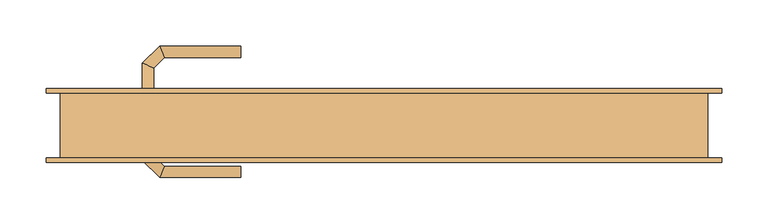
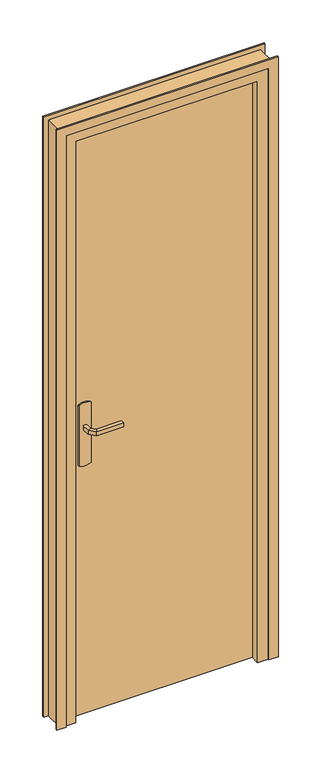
"""IFC4 building model written with IfcOpenShell, lengths in millimetres: door geometry, @_Int. Simple : @_PP (0.63m x 2.04m)."""

from ifc_helpers import new_model, si_unit, point, frame, frame_2d, origin, origin_with_axes, place, context, project, spatial, polyline, circle_curve, ellipse_curve, trimmed, segment, composite_curve, outline, extrude, faceted_brep, source, transform, mapped, element, save
from ifc_brep_helpers import plane_surface, cylinder_surface, advanced_brep


def door_d545ad62(model_context):
    return source(origin(), model_context, "Body", "SolidModel", [
        extrude(outline(composite_curve([segment(trimmed(circle_curve(frame_2d((904.6410162, -290.0)), 40.0), [point((870.0, -310.0))], [point((870.0, -270.0))], False, "CARTESIAN"), True, "CONTINUOUS"), segment(polyline([(870.0, -270.0), (1080.0, -270.0)]), True, "CONTINUOUS"), segment(trimmed(circle_curve(frame_2d((1045.3589838, -290.0)), 40.0), [point((1080.0, -270.0))], [point((1080.0, -310.0))], False, "CARTESIAN"), True, "CONTINUOUS"), segment(polyline([(1080.0, -310.0), (870.0, -310.0)]), True, "CONTINUOUS")], self_intersect=False)), frame((0.0, 35.0, 0.0), z_axis=(0.0, 1.0, 0.0), x_axis=(0.0, 0.0, 1.0)), (0.0, 0.0, 1.0), 5.0),
        extrude(outline(composite_curve([segment(trimmed(circle_curve(frame_2d((1045.3589838, -290.0)), 40.0), [point((1080.0, -270.0))], [point((1080.0, -310.0))], False, "CARTESIAN"), True, "CONTINUOUS"), segment(polyline([(1080.0, -310.0), (870.0, -310.0)]), True, "CONTINUOUS"), segment(trimmed(circle_curve(frame_2d((904.6410162, -290.0)), 40.0), [point((870.0, -310.0))], [point((870.0, -270.0))], False, "CARTESIAN"), True, "CONTINUOUS"), segment(polyline([(870.0, -270.0), (1080.0, -270.0)]), True, "CONTINUOUS")], self_intersect=False)), frame((0.0, -10.0, 0.0), z_axis=(0.0, 1.0, 0.0), x_axis=(0.0, 0.0, 1.0)), (0.0, 0.0, 1.0), 5.0),
        advanced_brep(
        [(-296.0, 40.0, 1007.0), (-296.0, 40.0, 993.0), (-284.0, 40.0, 993.0), (-284.0, 40.0, 1007.0), (-284.0, 62.680388, 1007.0), (-296.0, 67.6509507, 1007.0), (-284.0, 62.680388, 993.0), (-296.0, 67.6509507, 993.0), (-272.6522273, 74.0281607, 1007.0), (-277.62279, 86.0281607, 1007.0), (-272.6522273, 74.0281607, 993.0), (-277.62279, 86.0281607, 993.0), (-189.9813594, 86.0281607, 1007.0), (-189.9813594, 74.0281607, 1007.0), (-189.9813594, 74.0281607, 993.0), (-189.9813594, 86.0281607, 993.0)],
        [
            (0, 1),
            (1, 2, circle_curve(frame((-290.0, 40.0, 1013.0457722), z_axis=(0.0, -1.0, 0.0), x_axis=(1.0, 0.0, 0.0)), 20.9244589)),
            (2, 3),
            (3, 0, circle_curve(frame((-290.0, 40.0, 986.9542278), z_axis=(0.0, -1.0, 0.0), x_axis=(1.0, 0.0, 0.0)), 20.9244589)),
            (3, 4),
            (4, 5, ellipse_curve(frame((-290.0, 65.1656693, 986.9542278), z_axis=(-0.3826834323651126, -0.9238795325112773, 0.0), x_axis=(0.9238795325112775, -0.38268343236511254, 0.0)), 22.6484711, 20.9244589)),
            (5, 0),
            (2, 6),
            (6, 4),
            (1, 7),
            (7, 6, ellipse_curve(frame((-290.0, 65.1656693, 1013.0457722), z_axis=(-0.3826834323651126, -0.9238795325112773, 0.0), x_axis=(0.9238795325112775, -0.38268343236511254, 0.0)), 22.6484711, 20.9244589)),
            (5, 7),
            (4, 8),
            (8, 9, ellipse_curve(frame((-275.1375086, 80.0281607, 986.9542278), z_axis=(-0.9238795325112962, -0.38268343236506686, 0.0), x_axis=(0.3826834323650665, -0.9238795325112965, 0.0)), 22.6484711, 20.9244589)),
            (9, 5),
            (6, 10),
            (10, 8),
            (7, 11),
            (11, 10, ellipse_curve(frame((-275.1375086, 80.0281607, 1013.0457722), z_axis=(-0.9238795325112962, -0.38268343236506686, 0.0), x_axis=(0.3826834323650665, -0.9238795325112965, 0.0)), 22.6484711, 20.9244589)),
            (9, 11),
            (12, 13, circle_curve(frame((-189.9813594, 80.0281607, 986.9542278), z_axis=(1.0, 0.0, 0.0), x_axis=(0.0, -1.0, 0.0)), 20.9244589)),
            (13, 14),
            (14, 15, circle_curve(frame((-189.9813594, 80.0281607, 1013.0457722), z_axis=(1.0, 0.0, 0.0), x_axis=(0.0, -1.0, 0.0)), 20.9244589)),
            (15, 12),
            (8, 13),
            (12, 9),
            (10, 14),
            (11, 15),
        ],
        [
            plane_surface(frame((-299.2195445, 40.0, 1000.0), z_axis=(0.0, -1.0, 0.0), x_axis=(0.0, 0.0, -1.0))),
            cylinder_surface(frame((-290.0, 40.0, 986.9542278), z_axis=(0.0, -1.0, 0.0), x_axis=(1.0, 0.0, 0.0)), 20.9244589),
            plane_surface(frame((-284.0, 40.0, 1007.0), z_axis=(1.0, 0.0, 0.0), x_axis=(0.0, 1.0, 0.0))),
            cylinder_surface(frame((-290.0, 40.0, 1013.0457722), z_axis=(0.0, -1.0, 0.0), x_axis=(1.0, 0.0, 0.0)), 20.9244589),
            plane_surface(frame((-296.0, 40.0, 993.0), z_axis=(-1.0, 0.0, 0.0), x_axis=(0.0, 1.0, 0.0))),
            cylinder_surface(frame((-290.0, 65.1656693, 986.9542278), z_axis=(-0.7071067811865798, -0.7071067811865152, 0.0), x_axis=(0.7071067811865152, -0.7071067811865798, 0.0)), 20.9244589),
            plane_surface(frame((-284.0, 62.680388, 1007.0), z_axis=(0.7071067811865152, -0.7071067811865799, 0.0), x_axis=(0.7071067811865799, 0.7071067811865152, 0.0))),
            cylinder_surface(frame((-290.0, 65.1656693, 1013.0457722), z_axis=(-0.7071067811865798, -0.7071067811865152, 0.0), x_axis=(0.7071067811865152, -0.7071067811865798, 0.0)), 20.9244589),
            plane_surface(frame((-296.0, 67.6509507, 993.0), z_axis=(-0.7071067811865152, 0.7071067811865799, 0.0), x_axis=(0.7071067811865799, 0.7071067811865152, 0.0))),
            plane_surface(frame((-189.9813594, 80.0281607, 990.7804555), z_axis=(1.0, 0.0, 0.0), x_axis=(0.0, -1.0, 0.0))),
            cylinder_surface(frame((-275.1375086, 80.0281607, 986.9542278), z_axis=(-1.0, 0.0, 0.0), x_axis=(0.0, -1.0, 0.0)), 20.9244589),
            plane_surface(frame((-272.6522273, 74.0281607, 1007.0), z_axis=(0.0, -1.0, 0.0), x_axis=(1.0, 0.0, 0.0))),
            cylinder_surface(frame((-275.1375086, 80.0281607, 1013.0457722), z_axis=(-1.0, 0.0, 0.0), x_axis=(0.0, -1.0, 0.0)), 20.9244589),
            plane_surface(frame((-277.62279, 86.0281607, 993.0), z_axis=(0.0, 1.0, 0.0), x_axis=(1.0, 0.0, 0.0))),
        ],
        [
            (0, [[1, 2, 3, 4]]),
            (1, [[5, 6, 7, -4]]),
            (2, [[8, 9, -5, -3]]),
            (3, [[10, 11, -8, -2]]),
            (4, [[-7, 12, -10, -1]]),
            (5, [[13, 14, 15, -6]]),
            (6, [[16, 17, -13, -9]]),
            (7, [[18, 19, -16, -11]]),
            (8, [[-15, 20, -18, -12]]),
            (9, [[21, 22, 23, 24]]),
            (10, [[25, -21, 26, -14]]),
            (11, [[27, -22, -25, -17]]),
            (12, [[28, -23, -27, -19]]),
            (13, [[-26, -24, -28, -20]]),
        ],
    ),
        advanced_brep(
        [(-284.0, -10.0, 993.0), (-296.0, -10.0, 993.0), (-296.0, -10.0, 1007.0), (-284.0, -10.0, 1007.0), (-284.0, -32.4852045, 1007.0), (-284.0, -32.4852045, 993.0), (-296.0, -37.4557673, 1007.0), (-296.0, -37.4557673, 993.0), (-272.5147186, -43.9704859, 1007.0), (-272.5147186, -43.9704859, 993.0), (-277.4852814, -55.9704859, 1007.0), (-277.4852814, -55.9704859, 993.0), (-189.9542163, -43.9704859, 993.0), (-189.9542163, -43.9704859, 1007.0), (-189.9542163, -55.9704859, 1007.0), (-189.9542163, -55.9704859, 993.0)],
        [
            (0, 1, circle_curve(frame((-290.0, -10.0, 1013.0457722), z_axis=(0.0, 1.0, 0.0), x_axis=(-1.0, 0.0, 0.0)), 20.9244589)),
            (1, 2),
            (2, 3, circle_curve(frame((-290.0, -10.0, 986.9542278), z_axis=(0.0, 1.0, 0.0), x_axis=(-1.0, 0.0, 0.0)), 20.9244589)),
            (3, 0),
            (3, 4),
            (4, 5),
            (5, 0),
            (2, 6),
            (6, 4, ellipse_curve(frame((-290.0, -34.9704859, 986.9542278), z_axis=(-0.3826834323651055, 0.9238795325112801, 0.0), x_axis=(0.9238795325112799, 0.3826834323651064, 0.0)), 22.6484711, 20.9244589)),
            (1, 7),
            (7, 6),
            (5, 7, ellipse_curve(frame((-290.0, -34.9704859, 1013.0457722), z_axis=(-0.3826834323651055, 0.9238795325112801, 0.0), x_axis=(0.9238795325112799, 0.3826834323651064, 0.0)), 22.6484711, 20.9244589)),
            (4, 8),
            (8, 9),
            (9, 5),
            (6, 10),
            (10, 8, ellipse_curve(frame((-275.0, -49.9704859, 986.9542278), z_axis=(-0.9238795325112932, 0.382683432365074, 0.0), x_axis=(0.3826834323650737, 0.9238795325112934, 0.0)), 22.6484711, 20.9244589)),
            (7, 11),
            (11, 10),
            (9, 11, ellipse_curve(frame((-275.0, -49.9704859, 1013.0457722), z_axis=(-0.9238795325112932, 0.382683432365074, 0.0), x_axis=(0.3826834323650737, 0.9238795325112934, 0.0)), 22.6484711, 20.9244589)),
            (12, 13),
            (13, 14, circle_curve(frame((-189.9542163, -49.9704859, 986.9542278), z_axis=(1.0, 0.0, 0.0), x_axis=(0.0, -1.0, 0.0)), 20.9244589)),
            (14, 15),
            (15, 12, circle_curve(frame((-189.9542163, -49.9704859, 1013.0457722), z_axis=(1.0, 0.0, 0.0), x_axis=(0.0, -1.0, 0.0)), 20.9244589)),
            (8, 13),
            (12, 9),
            (10, 14),
            (11, 15),
        ],
        [
            plane_surface(frame((-299.2195445, -10.0, 1000.0), z_axis=(0.0, 1.0, 0.0), x_axis=(0.0, 0.0, 1.0))),
            plane_surface(frame((-284.0, -10.0, 993.0), z_axis=(1.0, 0.0, 0.0), x_axis=(0.0, -1.0, 0.0))),
            cylinder_surface(frame((-290.0, -10.0, 986.9542278), z_axis=(0.0, 1.0, 0.0), x_axis=(-1.0, 0.0, 0.0)), 20.9244589),
            plane_surface(frame((-296.0, -10.0, 1007.0), z_axis=(-1.0, 0.0, 0.0), x_axis=(0.0, -1.0, 0.0))),
            cylinder_surface(frame((-290.0, -10.0, 1013.0457722), z_axis=(0.0, 1.0, 0.0), x_axis=(-1.0, 0.0, 0.0)), 20.9244589),
            plane_surface(frame((-284.0, -32.4852045, 993.0), z_axis=(0.7071067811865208, 0.7071067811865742, 0.0), x_axis=(0.7071067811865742, -0.7071067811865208, 0.0))),
            cylinder_surface(frame((-290.0, -34.9704859, 986.9542278), z_axis=(-0.7071067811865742, 0.7071067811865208, 0.0), x_axis=(-0.7071067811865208, -0.7071067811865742, 0.0)), 20.9244589),
            plane_surface(frame((-296.0, -37.4557673, 1007.0), z_axis=(-0.7071067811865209, -0.7071067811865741, 0.0), x_axis=(0.7071067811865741, -0.7071067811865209, 0.0))),
            cylinder_surface(frame((-290.0, -34.9704859, 1013.0457722), z_axis=(-0.7071067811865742, 0.7071067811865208, 0.0), x_axis=(-0.7071067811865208, -0.7071067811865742, 0.0)), 20.9244589),
            plane_surface(frame((-189.9542163, -49.9704859, 990.7804555), z_axis=(1.0, 0.0, 0.0), x_axis=(0.0, -1.0, 0.0))),
            plane_surface(frame((-272.5147186, -43.9704859, 993.0), z_axis=(0.0, 1.0, 0.0), x_axis=(1.0, 0.0, 0.0))),
            cylinder_surface(frame((-275.0, -49.9704859, 986.9542278), z_axis=(-1.0, 0.0, 0.0), x_axis=(0.0, -1.0, 0.0)), 20.9244589),
            plane_surface(frame((-277.4852814, -55.9704859, 1007.0), z_axis=(0.0, -1.0, 0.0), x_axis=(1.0, 0.0, 0.0))),
            cylinder_surface(frame((-275.0, -49.9704859, 1013.0457722), z_axis=(-1.0, 0.0, 0.0), x_axis=(0.0, -1.0, 0.0)), 20.9244589),
        ],
        [
            (0, [[1, 2, 3, 4]]),
            (1, [[5, 6, 7, -4]]),
            (2, [[8, 9, -5, -3]]),
            (3, [[10, 11, -8, -2]]),
            (4, [[-7, 12, -10, -1]]),
            (5, [[13, 14, 15, -6]]),
            (6, [[16, 17, -13, -9]]),
            (7, [[18, 19, -16, -11]]),
            (8, [[-15, 20, -18, -12]]),
            (9, [[21, 22, 23, 24]]),
            (10, [[25, -21, 26, -14]]),
            (11, [[27, -22, -25, -17]]),
            (12, [[28, -23, -27, -19]]),
            (13, [[-26, -24, -28, -20]]),
        ],
    ),
        extrude(outline(polyline([(-350.0, -5.0), (-350.0, 35.0), (280.0, 35.0), (280.0, -5.0), (-350.0, -5.0)])), origin_with_axes(), (0.0, 0.0, 1.0), 2040.0),
        faceted_brep([(-385.0, 35.0, 0.0), (-350.0, 35.0, 0.0), (-350.0, -5.0, 0.0), (-335.0, -5.0, 0.0), (-335.0, -35.0, 0.0), (-385.0, -35.0, 0.0), (-385.0, -35.0, 2075.0), (-385.0, 35.0, 2075.0), (-335.0, -35.0, 2025.0), (265.0, -35.0, 2025.0), (265.0, -35.0, 0.0), (315.0, -35.0, 0.0), (315.0, -35.0, 2075.0), (-335.0, -5.0, 2025.0), (-350.0, -5.0, 2040.0), (280.0, -5.0, 2040.0), (280.0, -5.0, 0.0), (265.0, -5.0, 0.0), (265.0, -5.0, 2025.0), (-350.0, 35.0, 2040.0), (315.0, 35.0, 2075.0), (315.0, 35.0, 0.0), (280.0, 35.0, 0.0), (280.0, 35.0, 2040.0)], [[[0, 1, 2, 3, 4, 5]], [[5, 6, 7, 0]], [[4, 8, 9, 10, 11, 12, 6, 5]], [[3, 13, 8, 4]], [[2, 14, 15, 16, 17, 18, 13, 3]], [[1, 19, 14, 2]], [[0, 7, 20, 21, 22, 23, 19, 1]], [[12, 11, 21, 20]], [[21, 11, 10, 17, 16, 22]], [[18, 17, 10, 9]], [[23, 22, 16, 15]], [[6, 12, 20, 7]], [[13, 18, 9, 8]], [[19, 23, 15, 14]]]),
        extrude(outline(polyline([(0.0, -370.0), (2060.0, -370.0), (2060.0, 300.0), (0.0, 300.0), (0.0, 330.0), (2090.0, 330.0), (2090.0, -400.0), (0.0, -400.0), (0.0, -370.0)])), frame((0.0, 35.0, 0.0), z_axis=(0.0, 1.0, 0.0), x_axis=(0.0, 0.0, 1.0)), (0.0, 0.0, 1.0), 5.0),
        extrude(outline(polyline([(0.0, -370.0), (2060.0, -370.0), (2060.0, 300.0), (0.0, 300.0), (0.0, 330.0), (2090.0, 330.0), (2090.0, -400.0), (0.0, -400.0), (0.0, -370.0)])), frame((0.0, -40.0, 0.0), z_axis=(0.0, 1.0, 0.0), x_axis=(0.0, 0.0, 1.0)), (0.0, 0.0, 1.0), 5.0),
    ])


if __name__ == "__main__":
    model = new_model("IFC4")
    model_context = context("Model", 3, world=origin())
    ifc_project = project(units=[si_unit("LENGTHUNIT", "METRE", prefix="MILLI")], contexts=[model_context])
    site = spatial("IfcSite", under=ifc_project)
    building = spatial("IfcBuilding", under=site)
    placement = place(None, origin())
    door_shape = door_d545ad62(model_context)
    element("IfcDoor", 1, ObjectType="@_Int. Simple : @_PP (0.63m x 2.04m)", at=placement, inside=building, context=model_context, shape_type="MappedRepresentation", body=[
        mapped(door_shape, transform((0.0, 0.0, 0.0), x_axis=(1.0, 0.0, 0.0), y_axis=(0.0, 1.0, 0.0), z_axis=(0.0, 0.0, 1.0))),
    ])
    save(model, "model.ifc")
